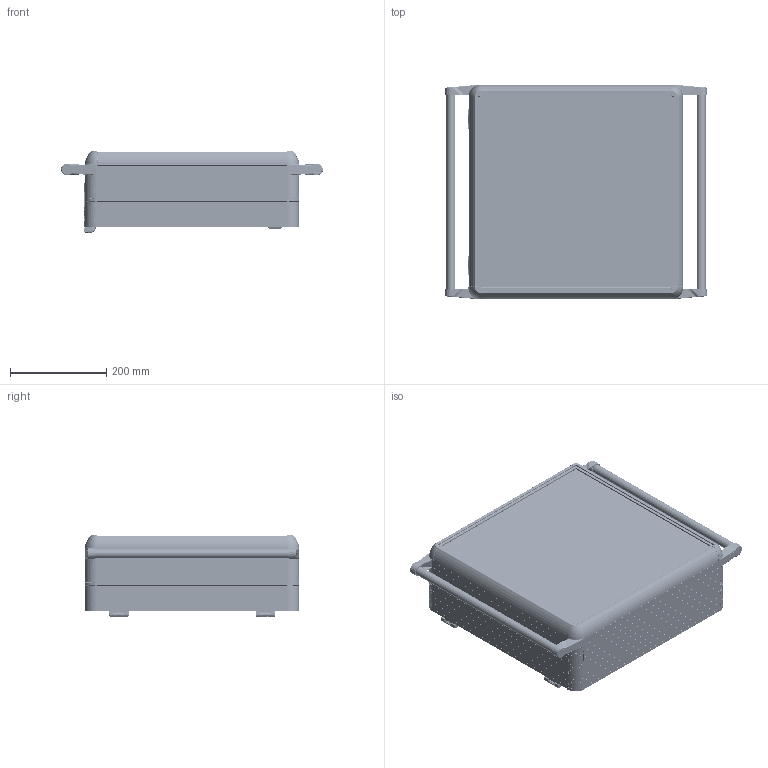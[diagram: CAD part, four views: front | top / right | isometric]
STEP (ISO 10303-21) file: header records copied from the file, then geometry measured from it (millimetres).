
FILE_DESCRIPTION (( 'STEP AP214' ), '1' );
FILE_NAME ('1500-0208.STEP', '2022-09-01T08:55:36', ( '' ), ( '' ), 'SwSTEP 2.0', 'SolidWorks 2022', '' );
FILE_SCHEMA (( 'AUTOMOTIVE_DESIGN' ));
Length unit declared in the file: millimetre
Products named in the file (7): ECO1500-0100(SOL); ECO1500-0100(SAÐ); ARKA_KAPAK_400X400; 400X400; boru_425; HPECO-150-001_395; 1500-0208
Assembly tree (12 placements, depth 2):
  1500-0208
    400X400
    ARKA_KAPAK_400X400
    HPECO-150-001_395  x4
    boru_425  x2
    ECO1500-0100(SOL)  x2
    ECO1500-0100(SAÐ)  x2
Bounding box: 544.62 x 447 x 169.15 mm (x, y, z)
Volume: 2543358 mm3; surface area: 2194604.9 mm2
Topology: 48 solids, 98 shells, 11341 faces, 29448 edges, 17878 vertices
Faces by surface type: plane 3665, cylinder 3168, bspline 3052, cone 798, torus 524, sphere 134
Entity records: 306956 total; most frequent: CARTESIAN_POINT 91810, ORIENTED_EDGE 33950, DIRECTION 27147, EDGE_CURVE 16975, VERTEX_POINT 10366, AXIS2_PLACEMENT_3D 10099, VECTOR 6949, LINE 6949
